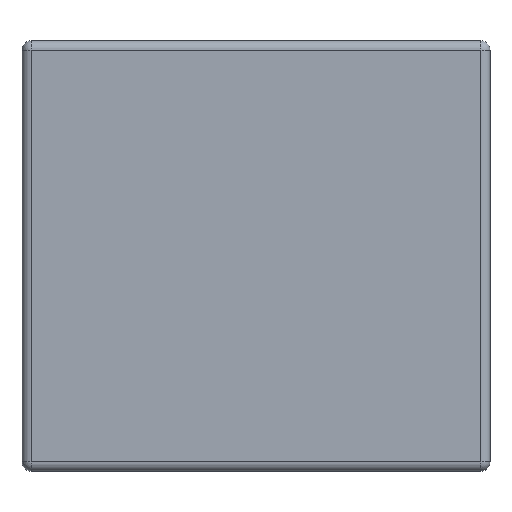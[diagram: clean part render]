
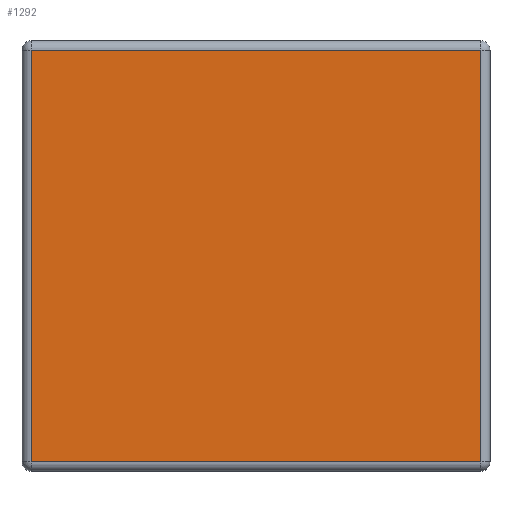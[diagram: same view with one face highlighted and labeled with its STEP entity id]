
A CAD part, front view. The second image highlights one B-rep face of the part: STEP entity #1292.
In plain terms, the highlighted planar face has unit normal (0, -1, 0).
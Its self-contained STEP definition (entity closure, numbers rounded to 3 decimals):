
#228=DIRECTION('',(0.,0.,1.));
#229=VECTOR('',#228,22.);
#230=CARTESIAN_POINT('',(-12.,0.,-11.));
#231=LINE('',#230,#229);
#273=DIRECTION('',(-1.,0.,0.));
#274=VECTOR('',#273,24.);
#275=CARTESIAN_POINT('',(12.,0.,-11.));
#276=LINE('',#275,#274);
#287=DIRECTION('',(0.,0.,-1.));
#288=VECTOR('',#287,22.);
#289=CARTESIAN_POINT('',(12.,0.,11.));
#290=LINE('',#289,#288);
#370=DIRECTION('',(1.,0.,0.));
#371=VECTOR('',#370,24.);
#372=CARTESIAN_POINT('',(-12.,0.,11.));
#373=LINE('',#372,#371);
#909=CARTESIAN_POINT('',(-12.,0.,11.));
#910=CARTESIAN_POINT('',(12.,0.,11.));
#911=VERTEX_POINT('',#909);
#912=VERTEX_POINT('',#910);
#981=CARTESIAN_POINT('',(12.,0.,-11.));
#982=VERTEX_POINT('',#981);
#983=CARTESIAN_POINT('',(-12.,0.,-11.));
#984=VERTEX_POINT('',#983);
#1279=CARTESIAN_POINT('',(0.,0.,0.));
#1280=DIRECTION('',(0.,1.,0.));
#1281=DIRECTION('',(0.,0.,1.));
#1282=AXIS2_PLACEMENT_3D('',#1279,#1280,#1281);
#1283=PLANE('',#1282);
#1285=ORIENTED_EDGE('',*,*,#1284,.T.);
#1286=ORIENTED_EDGE('',*,*,#1271,.T.);
#1287=ORIENTED_EDGE('',*,*,#1235,.T.);
#1289=ORIENTED_EDGE('',*,*,#1288,.T.);
#1290=EDGE_LOOP('',(#1285,#1286,#1287,#1289));
#1291=FACE_OUTER_BOUND('',#1290,.F.);
#1292=ADVANCED_FACE('',(#1291),#1283,.F.);
#1235=EDGE_CURVE('',#984,#911,#231,.T.);
#1271=EDGE_CURVE('',#982,#984,#276,.T.);
#1284=EDGE_CURVE('',#912,#982,#290,.T.);
#1288=EDGE_CURVE('',#911,#912,#373,.T.);
